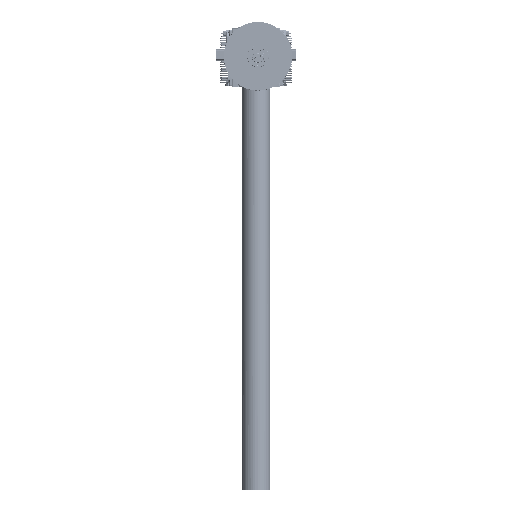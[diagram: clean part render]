
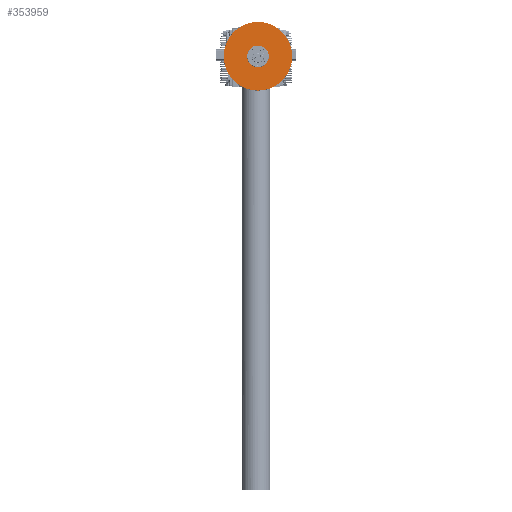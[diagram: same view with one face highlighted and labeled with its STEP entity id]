
A CAD part, front view. The second image highlights one B-rep face of the part: STEP entity #353959.
In plain terms, the highlighted planar face has unit normal (0.052, -0.999, 0) as drawn and (0, 0, 1) by its records, which use the part's own axes.
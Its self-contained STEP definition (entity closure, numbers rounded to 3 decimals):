
#6678 = AXIS2_PLACEMENT_3D ( 'NONE', #366015, #438710, #288476 ) ;
#7610 = AXIS2_PLACEMENT_3D ( 'NONE', #234559, #159481, #495002 ) ;
#15925 = VERTEX_POINT ( 'NONE', #476595 ) ;
#42597 = EDGE_LOOP ( 'NONE', ( #136159 ) ) ;
#86714 = CARTESIAN_POINT ( 'NONE',  ( 0., 0., 59.1 ) ) ;
#99061 = CIRCLE ( 'NONE', #418843, 30. ) ;
#136159 = ORIENTED_EDGE ( 'NONE', *, *, #288223, .T. ) ;
#159481 = DIRECTION ( 'NONE',  ( 0., 0., -1. ) ) ;
#159583 = CIRCLE ( 'NONE', #7610, 95. ) ;
#173321 = PLANE ( 'NONE',  #6678 ) ;
#234559 = CARTESIAN_POINT ( 'NONE',  ( 0., 0., 59.1 ) ) ;
#236927 = DIRECTION ( 'NONE',  ( 0., 0., -1. ) ) ;
#245939 = FACE_OUTER_BOUND ( 'NONE', #476632, .T. ) ;
#288223 = EDGE_CURVE ( 'NONE', #15925, #15925, #99061, .T. ) ;
#288476 = DIRECTION ( 'NONE',  ( -1., 0., 0. ) ) ;
#332534 = CARTESIAN_POINT ( 'NONE',  ( 0., 95., 59.1 ) ) ;
#353959 = ADVANCED_FACE ( 'NONE', ( #245939, #431274 ), #173321, .F. ) ;
#356450 = EDGE_CURVE ( 'NONE', #492582, #492582, #159583, .T. ) ;
#366015 = CARTESIAN_POINT ( 'NONE',  ( -81.854, 0., 59.1 ) ) ;
#392067 = DIRECTION ( 'NONE',  ( -1., 0., 0. ) ) ;
#394909 = ORIENTED_EDGE ( 'NONE', *, *, #356450, .F. ) ;
#418843 = AXIS2_PLACEMENT_3D ( 'NONE', #86714, #236927, #392067 ) ;
#431274 = FACE_BOUND ( 'NONE', #42597, .T. ) ;
#438710 = DIRECTION ( 'NONE',  ( 0., 0., -1. ) ) ;
#476595 = CARTESIAN_POINT ( 'NONE',  ( -30., 0., 59.1 ) ) ;
#476632 = EDGE_LOOP ( 'NONE', ( #394909 ) ) ;
#492582 = VERTEX_POINT ( 'NONE', #332534 ) ;
#495002 = DIRECTION ( 'NONE',  ( 0., 1., 0. ) ) ;
